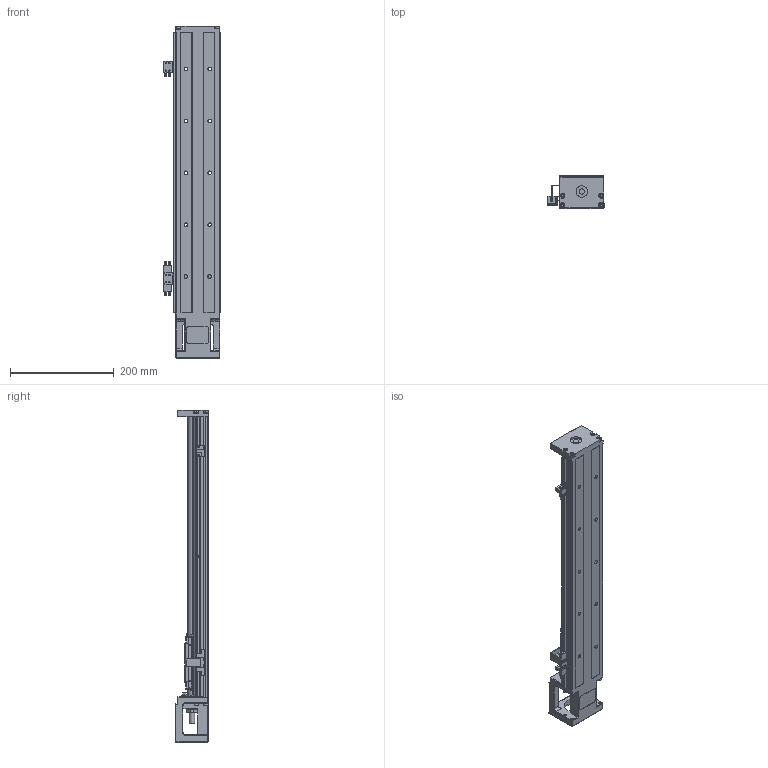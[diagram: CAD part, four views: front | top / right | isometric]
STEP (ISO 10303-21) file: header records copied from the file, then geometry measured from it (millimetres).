
FILE_DESCRIPTION (( 'STEP AP214' ), '1' );
FILE_NAME ('SFKK86-540A1-F0.STEP', '2022-05-05T03:47:32', ( '微软用户' ), ( '微软中国' ), 'SwSTEP 2.0', 'SolidWorks 2018', '' );
FILE_SCHEMA (( 'AUTOMOTIVE_DESIGN' ));
Length unit declared in the file: millimetre
Products named in the file (8): SFKK86-LR 憤癹寢耋_540; SFKK86-F0_KKR86-ZT-P-540; 不带盖挡光片：KK-86-S2-D2; 开关固定座：KK-674S2-F; SFKK86-540A1-F0; SFKK86-A1; 极限轨道与开关固定座组合_540; SX674嫖萇羲壽
Assembly tree (10 placements, depth 3):
  SFKK86-540A1-F0
    SFKK86-F0_KKR86-ZT-P-540
    SFKK86-A1
    极限轨道与开关固定座组合_540
      SFKK86-LR 憤癹寢耋_540
      开关固定座：KK-674S2-F  x2
    不带盖挡光片：KK-86-S2-D2
    SX674嫖萇羲壽  x3
Bounding box: 108.25 x 64 x 640 mm (x, y, z)
Volume: 1252105.5 mm3; surface area: 320926.5 mm2
Topology: 26 solids, 26 shells, 1468 faces, 3785 edges, 2370 vertices
Faces by surface type: plane 726, cylinder 524, cone 142, torus 47, sphere 23, bspline 6
Entity records: 50201 total; most frequent: CARTESIAN_POINT 11146, DIRECTION 7104, ORIENTED_EDGE 6820, EDGE_CURVE 3410, AXIS2_PLACEMENT_3D 2493, VERTEX_POINT 2176, VECTOR 2118, LINE 2118
